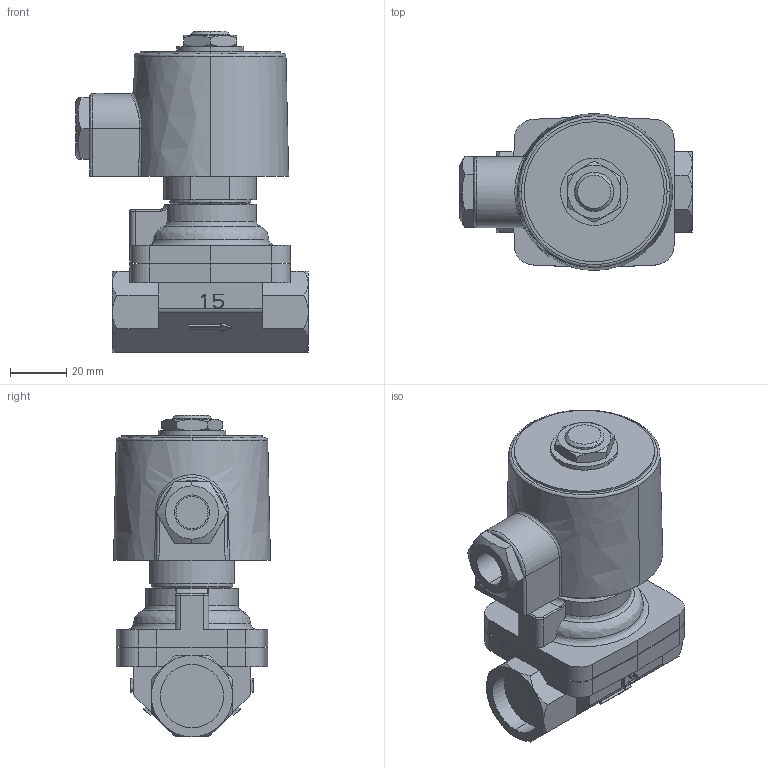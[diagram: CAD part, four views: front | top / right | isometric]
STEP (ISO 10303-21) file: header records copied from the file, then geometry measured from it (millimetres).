
FILE_DESCRIPTION( (''), '2;1');
FILE_NAME ('PC1056.10280.DP-200(10A)_25496.stp','2024-07-05T11:54:59',(''),(''),'spGate 19.8.4 (****-****-****-****)','','');
FILE_SCHEMA (('AUTOMOTIVE_DESIGN'));
Length unit declared in the file: millimetre
Products named in the file (5): Assembly; DP-200(10A)本体; DP200パイプ1Ｂ以下; ACコイル10A; コイル六角ナット座金
Assembly tree (4 placements, depth 2):
  Assembly
    DP-200(10A)本体
    DP200パイプ1Ｂ以下
    ACコイル10A
    コイル六角ナット座金
Bounding box: 83 x 56 x 114.7 mm (x, y, z)
Volume: 222113.6 mm3; surface area: 49268.5 mm2
Topology: 4 solids, 4 shells, 309 faces, 728 edges, 448 vertices
Faces by surface type: plane 130, cylinder 95, bspline 84
Entity records: 17245 total; most frequent: CARTESIAN_POINT 4662, ORIENTED_EDGE 1456, DIRECTION 1220, COLOUR_RGB 1041, PRESENTATION_STYLE_ASSIGNMENT 1041, STYLED_ITEM 1041, EDGE_CURVE 728, DRAUGHTING_PRE_DEFINED_CURVE_FONT 728
